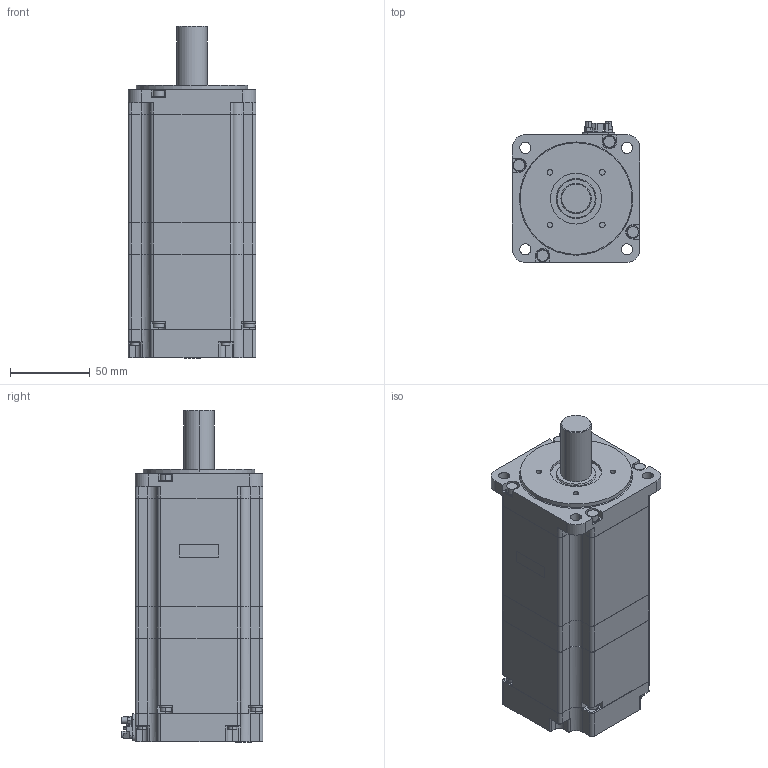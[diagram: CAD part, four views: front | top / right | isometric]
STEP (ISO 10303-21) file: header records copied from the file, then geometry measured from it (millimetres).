
FILE_DESCRIPTION (( 'STEP AP214' ), '1' );
FILE_NAME ('sgmxa_10aua2ca_.STEP', '2021-07-13T02:10:56', ( '' ), ( '' ), 'SwSTEP 2.0', 'SolidWorks 2016', '' );
FILE_SCHEMA (( 'AUTOMOTIVE_DESIGN' ));
Length unit declared in the file: millimetre
Products named in the file (1): sgmxa_10aua2ca_
Bounding box: 80.1 x 88.8 x 208.1 mm (x, y, z)
Volume: 968257.9 mm3; surface area: 72663.3 mm2
Topology: 1 solids, 1 shells, 528 faces, 1402 edges, 930 vertices
Faces by surface type: plane 297, cylinder 225, cone 4, torus 2
Entity records: 22346 total; most frequent: DIRECTION 2934, CARTESIAN_POINT 2861, ORIENTED_EDGE 2804, EDGE_CURVE 1402, AXIS2_PLACEMENT_3D 1003, VERTEX_POINT 930, LINE 928, VECTOR 928
